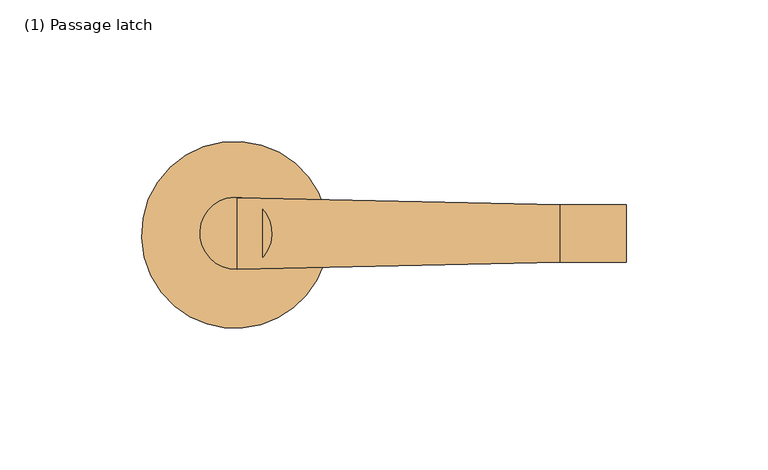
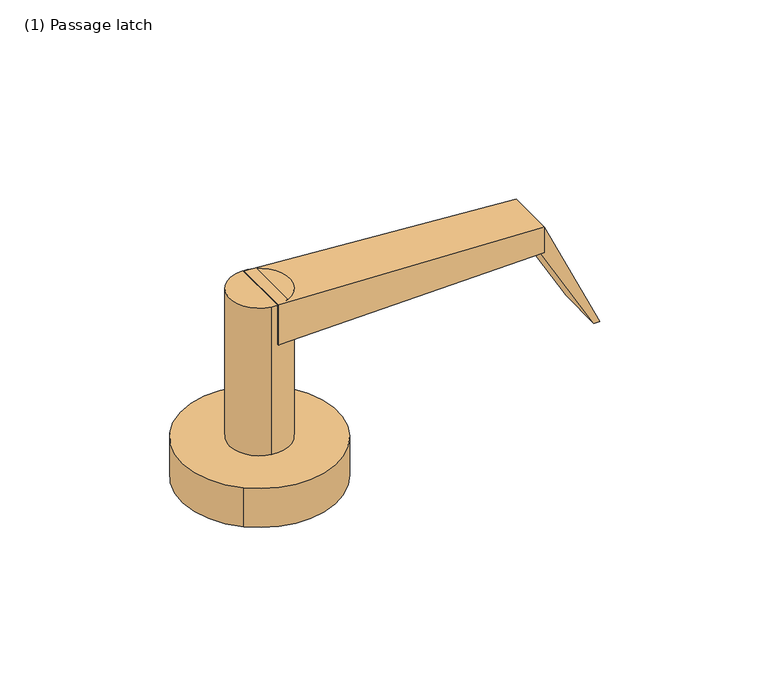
"""IFC4 building model written with IfcOpenShell, lengths in millimetres: door geometry, Door_Handle-Teknion-FHHSL-Schlage L Series(Child) : (1) Passage latch."""

from ifc_helpers import new_model, si_unit, point, frame, frame_2d, origin, origin_with_axes, place, context, project, spatial, polyline, circle_curve, trimmed, segment, composite_curve, outline, extrude, source, transform, mapped, element, save
from ifc_brep_helpers import plane_surface, spline_surface, advanced_brep


def door_1_passage_latch_510094a5(model_context):
    return source(origin(), model_context, "Body", "SolidModel", [
        advanced_brep(
        [(113.0826159, 9.8661661, 77.089), (113.0826159, -10.4783486, 77.089), (113.0826159, -10.4783486, 65.659), (113.0826159, 9.8661661, 65.659), (-0.79375, 12.3783123, 83.439), (-0.79375, 12.378509, 65.659), (-0.79375, -13.0089229, 65.659), (-0.79375, -13.0118705, 83.439)],
        [
            (0, 1),
            (1, 2),
            (2, 3),
            (3, 0),
            (4, 5),
            (5, 6),
            (6, 7),
            (7, 4),
            (4, 0),
            (3, 5),
            (2, 6),
            (1, 7),
        ],
        [
            plane_surface(frame((113.0826159, -0.3060912, 71.374), z_axis=(1.0, 0.0, 0.0), x_axis=(0.0, 1.0, 0.0))),
            plane_surface(frame((-0.79375, -0.315993, 74.549), z_axis=(-1.0000000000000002, 0.0, 0.0), x_axis=(0.0, 1.1064247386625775e-05, -0.9999999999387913))),
            spline_surface(1, 1, [[(-0.79375, 12.3783123, 83.439), (-0.79375, 12.378509, 65.659)], [(113.0826159, 9.8661661, 77.089), (113.0826159, 9.8661661, 65.659)]], [2, 2], [2, 2], [0.0, 1.0], [0.0, 1.0]),
            plane_surface(frame((-0.79375, -0.315207, 65.659), z_axis=(0.0, 0.0, -1.0), x_axis=(0.0, -1.0, 0.0))),
            spline_surface(1, 1, [[(-0.79375, -13.0089229, 65.659), (-0.79375, -13.0118705, 83.439)], [(113.0826159, -10.4783486, 65.659), (113.0826159, -10.4783486, 77.089)]], [2, 2], [2, 2], [0.0, 1.0], [0.0, 1.0]),
            plane_surface(frame((-0.79375, -0.3167791, 83.439), z_axis=(0.05567573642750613, 0.0, 0.9984489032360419), x_axis=(0.0, 1.0, 0.0))),
        ],
        [
            (0, [[1, 2, 3, 4]]),
            (1, [[5, 6, 7, 8]]),
            (2, [[9, -4, 10, -5]]),
            (3, [[-10, -3, 11, -6]]),
            (4, [[-11, -2, 12, -7]]),
            (5, [[-12, -1, -9, -8]]),
        ],
    ),
        extrude(outline(composite_curve([segment(trimmed(circle_curve(frame_2d((-1.3064074, -0.1984375)), 12.7), [point((-3.427265, -12.7200973))], [point((0.8144502, 12.3232223))], False, "CARTESIAN"), True, "CONTINUOUS"), segment(trimmed(circle_curve(frame_2d((-1.3064074, -0.1984375)), 12.7), [point((0.8144502, 12.3232223))], [point((-3.427265, -12.7200973))], False, "CARTESIAN"), True, "CONTINUOUS")], self_intersect=False)), frame((0.0, 0.0, 17.399), z_axis=(0.0, 0.0, 1.0), x_axis=(1.0, 0.0, 0.0)), (0.0, 0.0, 1.0), 66.04),
        extrude(outline(composite_curve([segment(trimmed(circle_curve(frame_2d((-1.6178614, -0.7745191)), 33.02), [point((-22.9508261, -25.9781898))], [point((19.7151032, 24.4291516))], False, "CARTESIAN"), True, "CONTINUOUS"), segment(trimmed(circle_curve(frame_2d((-1.6178614, -0.7745191)), 33.02), [point((19.7151032, 24.4291516))], [point((-22.9508261, -25.9781898))], False, "CARTESIAN"), True, "CONTINUOUS")], self_intersect=False)), origin_with_axes(), (0.0, 0.0, 1.0), 17.399),
        extrude(outline(polyline([(77.089, 113.0826159), (65.659, 113.0826159), (65.659, 111.7545147), (26.5862634, 134.0924288), (26.5862634, 136.6324288), (77.089, 113.0826159)])), frame((0.0, -10.4783486, 0.0), z_axis=(0.0, 1.0, 0.0), x_axis=(0.0, 0.0, 1.0)), (0.0, 0.0, 1.0), 20.32),
    ])


if __name__ == "__main__":
    model = new_model("IFC4")
    model_context = context("Model", 3, world=origin())
    ifc_project = project(units=[si_unit("LENGTHUNIT", "METRE", prefix="MILLI")], contexts=[model_context])
    site = spatial("IfcSite", under=ifc_project)
    building = spatial("IfcBuilding", under=site)
    placement = place(None, origin())
    door_1_passage_latch_shape = door_1_passage_latch_510094a5(model_context)
    element("IfcDoor", 1, ObjectType="Door_Handle-Teknion-FHHSL-Schlage L Series(Child) : (1) Passage latch", at=placement, inside=building, context=model_context, shape_type="MappedRepresentation", body=[
        mapped(door_1_passage_latch_shape, transform((0.0, 0.0, 0.0), x_axis=(1.0, 0.0, 0.0), y_axis=(0.0, 1.0, 0.0), z_axis=(0.0, 0.0, 1.0))),
    ])
    save(model, "model.ifc")
